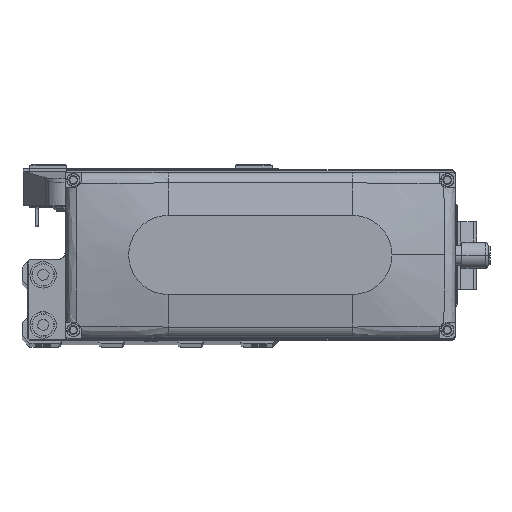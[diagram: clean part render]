
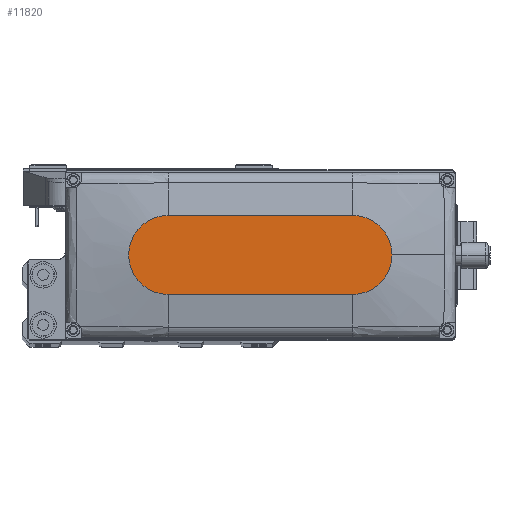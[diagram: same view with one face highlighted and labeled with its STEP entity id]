
A CAD part, top view. The second image highlights one B-rep face of the part: STEP entity #11820.
In plain terms, the highlighted planar face has unit normal (0, 0, 1).
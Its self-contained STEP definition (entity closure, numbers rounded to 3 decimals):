
#86 = CARTESIAN_POINT ( 'NONE',  ( 35., 0., 35. ) ) ;
#1471 = ORIENTED_EDGE ( 'NONE', *, *, #39008, .T. ) ;
#1909 = VERTEX_POINT ( 'NONE', #23876 ) ;
#4466 = CIRCLE ( 'NONE', #30958, 15. ) ;
#4696 = EDGE_CURVE ( 'NONE', #43253, #27371, #4466, .T. ) ;
#4863 = VERTEX_POINT ( 'NONE', #41062 ) ;
#6508 = CIRCLE ( 'NONE', #32996, 15. ) ;
#8121 = CARTESIAN_POINT ( 'NONE',  ( 35., 0., 35. ) ) ;
#9539 = ORIENTED_EDGE ( 'NONE', *, *, #19412, .T. ) ;
#10350 = CARTESIAN_POINT ( 'NONE',  ( 0., 0., 35. ) ) ;
#11820 = ADVANCED_FACE ( 'NONE', ( #28354 ), #42806, .T. ) ;
#13420 = CARTESIAN_POINT ( 'NONE',  ( 35., -15., 35. ) ) ;
#13893 = AXIS2_PLACEMENT_3D ( 'NONE', #10350, #24796, #39255 ) ;
#14552 = DIRECTION ( 'NONE',  ( 0., 0., 1. ) ) ;
#15341 = AXIS2_PLACEMENT_3D ( 'NONE', #17155, #31637, #46066 ) ;
#15967 = LINE ( 'NONE', #30433, #45676 ) ;
#17155 = CARTESIAN_POINT ( 'NONE',  ( -35., 0., 35. ) ) ;
#17373 = LINE ( 'NONE', #31847, #36781 ) ;
#19412 = EDGE_CURVE ( 'NONE', #27371, #4863, #15967, .T. ) ;
#20988 = VERTEX_POINT ( 'NONE', #13420 ) ;
#22573 = DIRECTION ( 'NONE',  ( 0., 0., 1. ) ) ;
#22780 = EDGE_CURVE ( 'NONE', #1909, #20988, #17373, .T. ) ;
#23876 = CARTESIAN_POINT ( 'NONE',  ( -35., -15., 35. ) ) ;
#24177 = EDGE_CURVE ( 'NONE', #20988, #43253, #6508, .T. ) ;
#24796 = DIRECTION ( 'NONE',  ( 0., 0., 1. ) ) ;
#27371 = VERTEX_POINT ( 'NONE', #30633 ) ;
#28354 = FACE_OUTER_BOUND ( 'NONE', #33527, .T. ) ;
#29006 = DIRECTION ( 'NONE',  ( 1., 0., 0. ) ) ;
#30228 = ORIENTED_EDGE ( 'NONE', *, *, #24177, .T. ) ;
#30433 = CARTESIAN_POINT ( 'NONE',  ( -35., 15., 35. ) ) ;
#30633 = CARTESIAN_POINT ( 'NONE',  ( 35., 15., 35. ) ) ;
#30958 = AXIS2_PLACEMENT_3D ( 'NONE', #86, #14552, #29006 ) ;
#31637 = DIRECTION ( 'NONE',  ( 0., 0., 1. ) ) ;
#31847 = CARTESIAN_POINT ( 'NONE',  ( -35., -15., 35. ) ) ;
#32996 = AXIS2_PLACEMENT_3D ( 'NONE', #8121, #22573, #37031 ) ;
#33527 = EDGE_LOOP ( 'NONE', ( #9539, #1471, #34867, #30228, #45085 ) ) ;
#34867 = ORIENTED_EDGE ( 'NONE', *, *, #22780, .T. ) ;
#35769 = CIRCLE ( 'NONE', #15341, 15. ) ;
#36781 = VECTOR ( 'NONE', #46277, 1000. ) ;
#37031 = DIRECTION ( 'NONE',  ( 1., 0., 0. ) ) ;
#39008 = EDGE_CURVE ( 'NONE', #4863, #1909, #35769, .T. ) ;
#39255 = DIRECTION ( 'NONE',  ( 1., 0., 0. ) ) ;
#41062 = CARTESIAN_POINT ( 'NONE',  ( -35., 15., 35. ) ) ;
#42806 = PLANE ( 'NONE',  #13893 ) ;
#43253 = VERTEX_POINT ( 'NONE', #44171 ) ;
#44171 = CARTESIAN_POINT ( 'NONE',  ( 50., 0., 35. ) ) ;
#44873 = DIRECTION ( 'NONE',  ( -1., 0., 0. ) ) ;
#45085 = ORIENTED_EDGE ( 'NONE', *, *, #4696, .T. ) ;
#45676 = VECTOR ( 'NONE', #44873, 1000. ) ;
#46066 = DIRECTION ( 'NONE',  ( 1., 0., 0. ) ) ;
#46277 = DIRECTION ( 'NONE',  ( 1., 0., 0. ) ) ;
